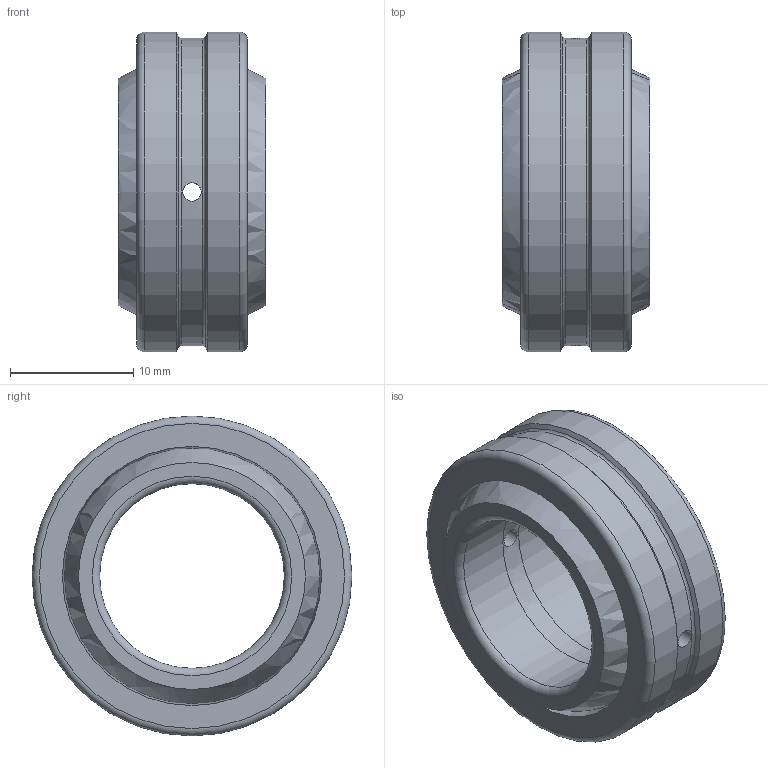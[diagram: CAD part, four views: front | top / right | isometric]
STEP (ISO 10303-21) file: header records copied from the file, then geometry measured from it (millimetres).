
FILE_DESCRIPTION(/* description */ (''),/* implementation_level */ '2;1');
FILE_NAME(/* name */ 'D:\moje\parametrické\GE--\GE--_\GE15E.stp',/* time_stamp */ '2016-08-17T13:57:45+02:00',/* author */ ('OUBALASKO'),/* organization */ (''),/* preprocessor_version */ 'ST-DEVELOPER v15.6',/* originating_system */ 'Autodesk Inventor 2015',/* authorisation */ '');
FILE_SCHEMA (('AUTOMOTIVE_DESIGN { 1 0 10303 214 3 1 1 }'));
Length unit declared in the file: millimetre
Products named in the file (3): GE15E-02; GE15E-01; GE15E
Assembly tree (2 placements, depth 2):
  GE15E
    GE15E-02
    GE15E-01
Bounding box: 12 x 26 x 26 mm (x, y, z)
Volume: 3353 mm3; surface area: 3297.1 mm2
Topology: 2 solids, 2 shells, 28 faces, 66 edges, 42 vertices
Faces by surface type: torus 9, cylinder 9, plane 4, sphere 3, cone 2, bspline 1
Full cylindrical faces by diameter (mm): 1.5 x4, 15 x2, 25 x1, 26 x2
Entity records: 931 total; most frequent: CARTESIAN_POINT 340, DIRECTION 120, ORIENTED_EDGE 70, EDGE_LOOP 63, AXIS2_PLACEMENT_3D 60, FACE_BOUND 36, EDGE_CURVE 35, VERTEX_POINT 34
